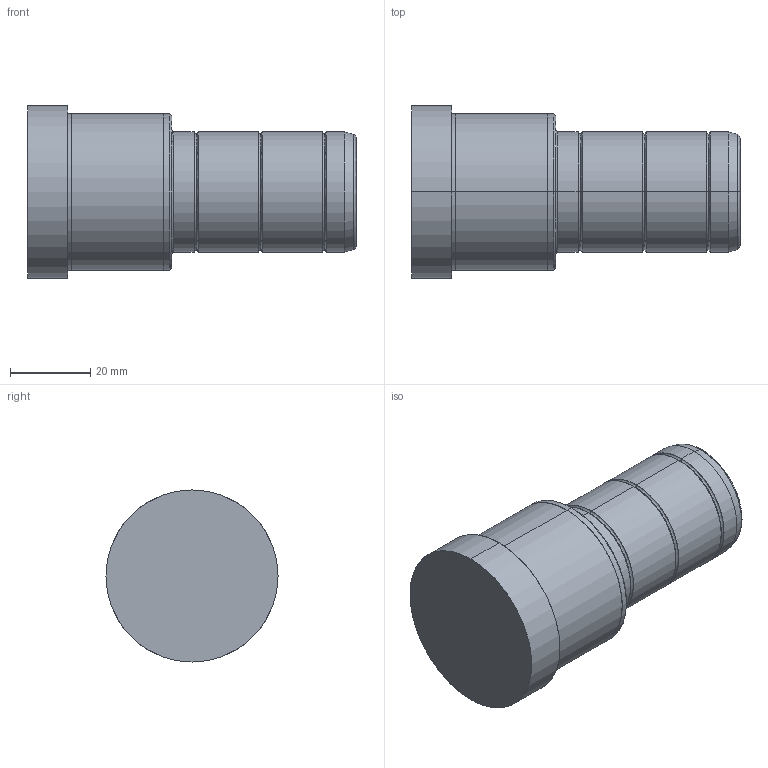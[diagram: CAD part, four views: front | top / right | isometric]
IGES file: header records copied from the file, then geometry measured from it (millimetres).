
Start section: SolidWorks IGES file using analytic representation for surfaces
Global section: file name: C:\Documents and Settings\kalite-mail\Desktop\IGS\D02\30\D02 - 30x36x46.IGS; native system: SolidWorks 2008; preprocessor: SolidWorks 2008; author: kalite-mail; date: 080617.085940; units: millimetre
Bounding box: 82 x 43 x 43 mm (x, y, z)
Surface area: 11783.8 mm2 (no closed solid volume)
Topology: 0 solids, 0 shells, 42 faces, 752 edges, 752 vertices
Faces by surface type: bspline 22, revolution 20
